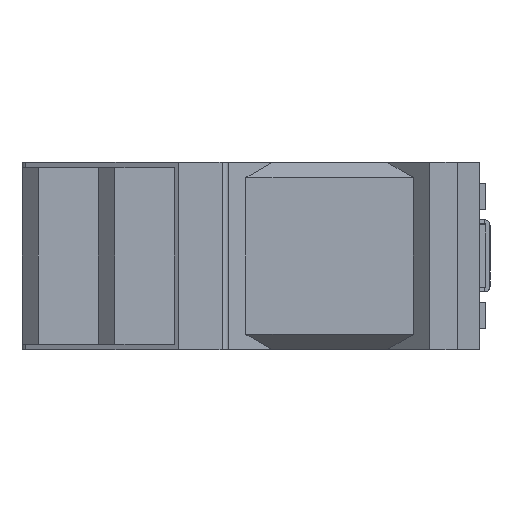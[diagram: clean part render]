
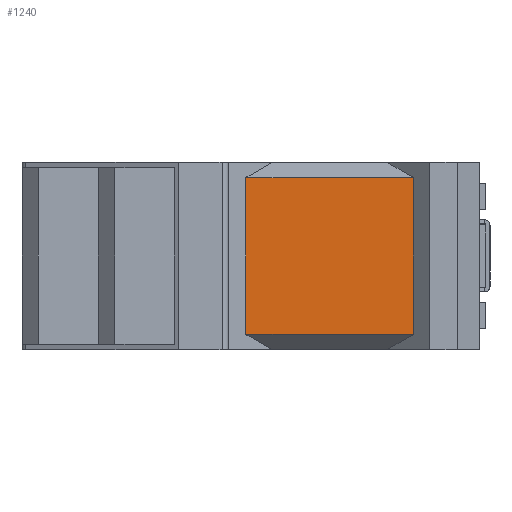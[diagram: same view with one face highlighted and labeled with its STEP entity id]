
A CAD part, left-side view. The second image highlights one B-rep face of the part: STEP entity #1240.
In plain terms, the highlighted planar face has unit normal (-1, 0, 0) as drawn and (1, 0, 0) by its records, which use the part's own axes.
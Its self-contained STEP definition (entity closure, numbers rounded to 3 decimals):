
#21 = VERTEX_POINT ( 'NONE', #1831 ) ;
#52 = DIRECTION ( 'NONE',  ( 0., -1., 0. ) ) ;
#155 = CARTESIAN_POINT ( 'NONE',  ( 42.55, 16., 22.8 ) ) ;
#189 = ORIENTED_EDGE ( 'NONE', *, *, #3540, .F. ) ;
#262 = VECTOR ( 'NONE', #3371, 1000. ) ;
#282 = CARTESIAN_POINT ( 'NONE',  ( 42.55, 10.192, 19.05 ) ) ;
#415 = CARTESIAN_POINT ( 'NONE',  ( 42.55, 56.7, 22.8 ) ) ;
#567 = LINE ( 'NONE', #282, #262 ) ;
#821 = EDGE_CURVE ( 'NONE', #1597, #2492, #1057, .T. ) ;
#940 = VECTOR ( 'NONE', #2112, 1000. ) ;
#1012 = FACE_OUTER_BOUND ( 'NONE', #2938, .T. ) ;
#1057 = LINE ( 'NONE', #1986, #1437 ) ;
#1240 = ADVANCED_FACE ( 'NONE', ( #1012 ), #1725, .F. ) ;
#1252 = DIRECTION ( 'NONE',  ( 0., 0., -1. ) ) ;
#1264 = ORIENTED_EDGE ( 'NONE', *, *, #2158, .T. ) ;
#1354 = CARTESIAN_POINT ( 'NONE',  ( 42.55, 56.7, 19.05 ) ) ;
#1373 = ORIENTED_EDGE ( 'NONE', *, *, #2742, .F. ) ;
#1437 = VECTOR ( 'NONE', #2535, 1000. ) ;
#1597 = VERTEX_POINT ( 'NONE', #2703 ) ;
#1725 = PLANE ( 'NONE',  #1926 ) ;
#1745 = VECTOR ( 'NONE', #1252, 1000. ) ;
#1831 = CARTESIAN_POINT ( 'NONE',  ( 42.55, 16., 19.05 ) ) ;
#1926 = AXIS2_PLACEMENT_3D ( 'NONE', #2574, #2850, #52 ) ;
#1986 = CARTESIAN_POINT ( 'NONE',  ( 42.55, 10.192, -19.05 ) ) ;
#2112 = DIRECTION ( 'NONE',  ( 0., 0., -1. ) ) ;
#2158 = EDGE_CURVE ( 'NONE', #21, #1597, #2898, .T. ) ;
#2384 = VERTEX_POINT ( 'NONE', #1354 ) ;
#2492 = VERTEX_POINT ( 'NONE', #3433 ) ;
#2535 = DIRECTION ( 'NONE',  ( 0., 1., 0. ) ) ;
#2574 = CARTESIAN_POINT ( 'NONE',  ( 42.55, 16., 22.8 ) ) ;
#2703 = CARTESIAN_POINT ( 'NONE',  ( 42.55, 16., -19.05 ) ) ;
#2711 = ORIENTED_EDGE ( 'NONE', *, *, #821, .T. ) ;
#2742 = EDGE_CURVE ( 'NONE', #21, #2384, #567, .T. ) ;
#2850 = DIRECTION ( 'NONE',  ( -1., 0., 0. ) ) ;
#2898 = LINE ( 'NONE', #155, #940 ) ;
#2938 = EDGE_LOOP ( 'NONE', ( #2711, #189, #1373, #1264 ) ) ;
#3371 = DIRECTION ( 'NONE',  ( 0., 1., 0. ) ) ;
#3433 = CARTESIAN_POINT ( 'NONE',  ( 42.55, 56.7, -19.05 ) ) ;
#3513 = LINE ( 'NONE', #415, #1745 ) ;
#3540 = EDGE_CURVE ( 'NONE', #2384, #2492, #3513, .T. ) ;
